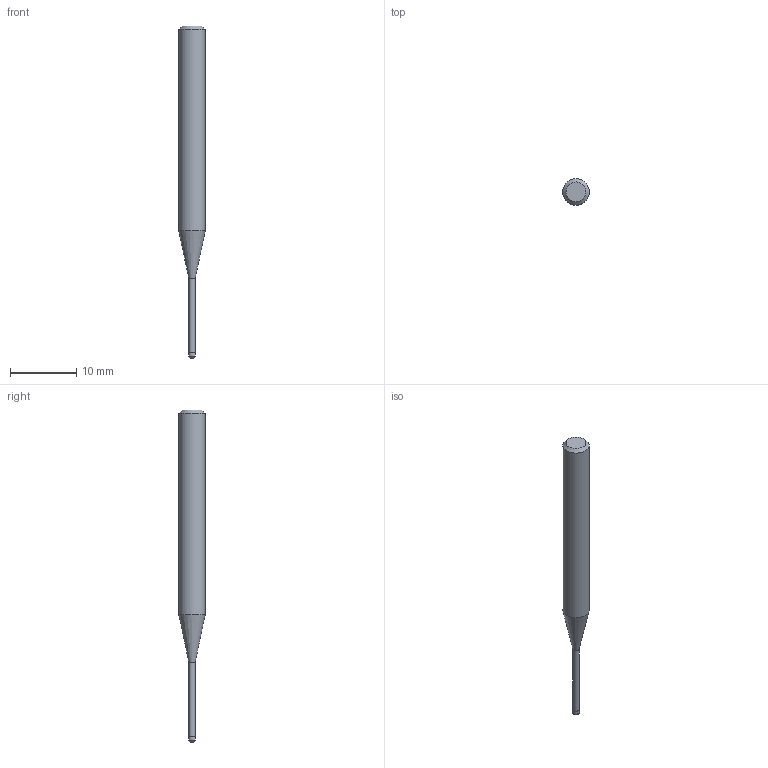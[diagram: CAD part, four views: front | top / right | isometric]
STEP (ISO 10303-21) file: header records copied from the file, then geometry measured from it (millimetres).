
FILE_DESCRIPTION((''),'2;1');
FILE_NAME('C:\Users\nsx150\AppData\Local\Temp\Mastercam 2021\17T8Q8S9EB\TEMP.step','2021-04-21T14:34:34',(''),(''),'STEP Write','Mastercam 2021 ... CNC Software, Inc.','');
FILE_SCHEMA(('AUTOMOTIVE_DESIGN'));
Length unit declared in the file: millimetre
Products named in the file (1): None
Bounding box: 4 x 4 x 50 mm (x, y, z)
Volume: 433.3 mm3; surface area: 490.7 mm2
Topology: 2 solids, 2 shells, 10 faces, 14 edges, 8 vertices
Faces by surface type: plane 4, cylinder 3, cone 2, torus 1
Full cylindrical faces by diameter (mm): 0.95 x1, 1 x1, 4 x1
Entity records: 232 total; most frequent: DIRECTION 40, CARTESIAN_POINT 28, AXIS2_PLACEMENT_3D 20, ORIENTED_EDGE 16, EDGE_LOOP 16, STYLED_ITEM 13, ADVANCED_FACE 10, FACE_BOUND 10
